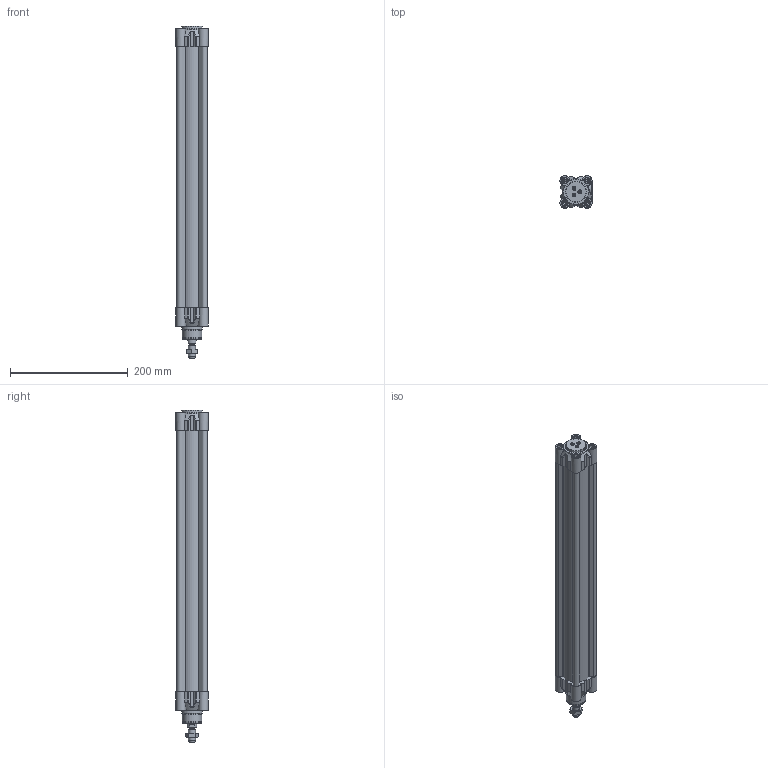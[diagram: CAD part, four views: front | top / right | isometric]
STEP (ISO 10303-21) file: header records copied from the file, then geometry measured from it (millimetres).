
FILE_DESCRIPTION(/* description */ ('Unknown'),/* implementation_level */ '2;1');
FILE_NAME(/* name */ 'HIFO 40_400',/* time_stamp */ '2024-08-14T08:56:56+02:00',/* author */ ('Unknown'),/* organization */ ('Unknown'),/* preprocessor_version */ 'ST-DEVELOPER v16.7',/* originating_system */ 'Solid Edge',/* authorisation */ 'Unknown');
FILE_SCHEMA (('AUTOMOTIVE_DESIGN {1 0 10303 214 3 1 1}'));
Length unit declared in the file: millimetre
Products named in the file (6): HIFO 40_400; Profilrohr 40_400; Mutter; Kolbenstange 40_400; Kit_1; Kit_2
Assembly tree (5 placements, depth 2):
  HIFO 40_400
    Profilrohr 40_400
    Mutter
    Kolbenstange 40_400
    Kit_1
    Kit_2
Bounding box: 54.5 x 54.5 x 563 mm (x, y, z)
Volume: 581741.3 mm3; surface area: 318356 mm2
Topology: 5 solids, 12 shells, 963 faces, 2463 edges, 1610 vertices
Faces by surface type: plane 392, cylinder 309, cone 95, torus 76, bspline 73, sphere 18
Full cylindrical faces by diameter (mm): 2.5 x1, 3 x3, 3.5 x3, 4.917 x16, 6 x11, 6.2 x8, 7 x1, 9.9 x2, 10 x13, 10.3 x8, 10.647 x1, 11.44 x1, 11.445 x2, 12 x1, 15.5 x1, 16 x2, 16.6 x1, 16.8 x1, 16.847 x1, 20 x1, 26 x2, 33 x1, 35 x2, 40 x2
Entity records: 37469 total; most frequent: CARTESIAN_POINT 9065, ORIENTED_EDGE 4790, DIRECTION 4576, EDGE_CURVE 2395, AXIS2_PLACEMENT_3D 1737, VERTEX_POINT 1593, FACE_BOUND 1128, EDGE_LOOP 1120
